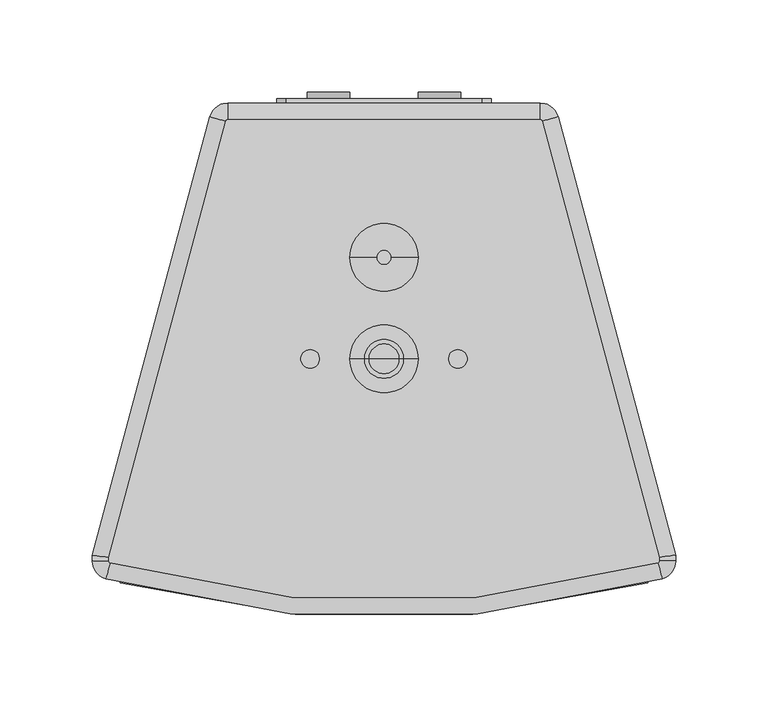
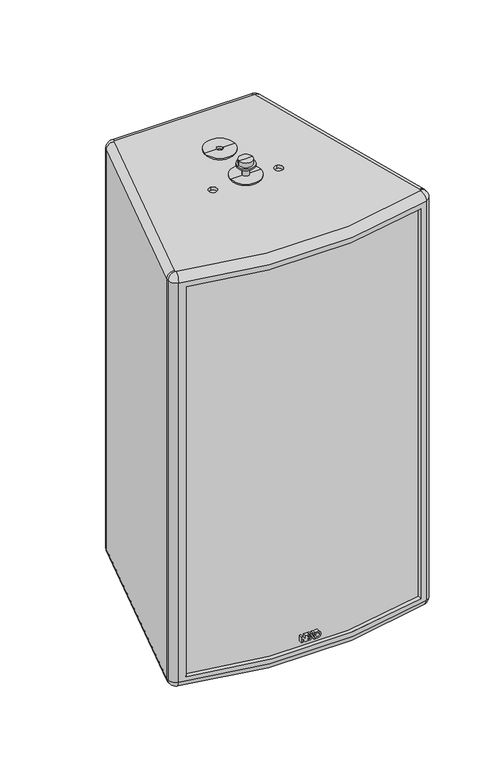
"""IFC4 building model written with IfcOpenShell, lengths in millimetres: proxy geometry, ePS10-HBRK535-WVM : ePS10-HBRK535-WVM."""

from ifc_helpers import new_model, si_unit, point, frame, frame_2d, origin, place, context, project, spatial, polyline, circle_curve, ellipse_curve, trimmed, segment, composite_curve, outline, extrude, source, transform, mapped, element, save
from ifc_brep_helpers import plane_surface, cylinder_surface, revolved_surface, advanced_brep


def generic_models_dbeaffa2(model_context):
    return source(origin(), model_context, "Body", "SolidModel", [
        extrude(outline(polyline([(-236.0590531, -11.9363528), (-243.3388202, -11.9363528), (-243.3388202, -10.0439855), (-239.1734899, -10.0439855), (-243.3388202, -7.2688886), (-243.3388202, -0.4179789), (-241.463849, 0.9005934), (-239.8643156, -0.1627837), (-241.7361557, -1.5323263), (-241.7361557, -4.5659556), (-240.4818684, -4.5659556), (-240.4818684, -2.2828427), (-238.8791381, -2.2828427), (-238.8791381, -4.5659556), (-237.6626349, -4.5659556), (-237.6626349, -2.1588809), (-236.8626349, -2.1588809), (-236.0599046, -2.6925396), (-236.0599046, -6.9609157), (-240.5099607, -6.9706073), (-236.0590531, -9.9098734), (-236.0590531, -11.9363528)])), frame((0.0, -383.9959014, 0.0), z_axis=(0.0, 1.0, 0.0), x_axis=(0.0, 0.0, 1.0)), (0.0, 0.0, 1.0), 5.0),
        extrude(outline(polyline([(-236.0590531, -2.0512245), (-244.3, 3.4273947), (-244.3, 5.6205974), (-236.0590531, 0.1419782), (-236.0590531, -2.0512245)])), frame((0.0, -383.9959014, 0.0), z_axis=(0.0, 1.0, 0.0), x_axis=(0.0, 0.0, 1.0)), (0.0, 0.0, 1.0), 5.0),
        extrude(outline(polyline([(-236.0590531, 4.6894095), (-236.0590531, 2.362619), (-237.3270101, 1.6148247), (-238.957904, 2.6990504), (-236.0590531, 4.6894095)])), frame((0.0, -383.9959014, 0.0), z_axis=(0.0, 1.0, 0.0), x_axis=(0.0, 0.0, 1.0)), (0.0, 0.0, 1.0), 5.0),
        extrude(outline(composite_curve([segment(trimmed(circle_curve(frame_2d((-239.7298911, 8.0750207)), 3.9406238), [point((-239.7298911, 4.1343969))], [point((-239.7298911, 12.0156446))], False, "CARTESIAN"), True, "CONTINUOUS"), segment(trimmed(circle_curve(frame_2d((-239.7298911, 8.0750207)), 3.9406238), [point((-239.7298911, 12.0156446))], [point((-239.7298911, 4.1343969))], False, "CARTESIAN"), True, "CONTINUOUS")], self_intersect=False), holes=[composite_curve([segment(trimmed(circle_curve(frame_2d((-239.7298911, 8.0750207)), 2.0681078), [point((-239.7298911, 6.0069129))], [point((-239.7298911, 10.1431285))], True, "CARTESIAN"), True, "CONTINUOUS"), segment(trimmed(circle_curve(frame_2d((-239.7298911, 8.0750207)), 2.0681078), [point((-239.7298911, 10.1431285))], [point((-239.7298911, 6.0069129))], True, "CARTESIAN"), True, "CONTINUOUS")], self_intersect=False)]), frame((0.0, -383.9959014, 0.0), z_axis=(0.0, 1.0, 0.0), x_axis=(0.0, 0.0, 1.0)), (0.0, 0.0, 1.0), 5.0),
        extrude(outline(composite_curve([segment(trimmed(circle_curve(frame_2d((-228.0, 30.0)), 11.4515227), [point((-228.0, 41.4515227))], [point((-228.0, 18.5484773))], False, "CARTESIAN"), True, "CONTINUOUS"), segment(trimmed(circle_curve(frame_2d((-228.0, 30.0)), 11.4515227), [point((-228.0, 18.5484773))], [point((-228.0, 41.4515227))], False, "CARTESIAN"), True, "CONTINUOUS")], self_intersect=False), holes=[composite_curve([segment(trimmed(circle_curve(frame_2d((-228.0, 30.0)), 5.0), [point((-228.0, 35.0))], [point((-228.0, 25.0))], True, "CARTESIAN"), True, "CONTINUOUS"), segment(trimmed(circle_curve(frame_2d((-228.0, 30.0)), 5.0), [point((-228.0, 25.0))], [point((-228.0, 35.0))], True, "CARTESIAN"), True, "CONTINUOUS")], self_intersect=False)]), frame((0.0, -105.401166, 0.0), z_axis=(0.0, 1.0, 0.0), x_axis=(0.0, 0.0, 1.0)), (0.0, 0.0, 1.0), 3.4052646),
        extrude(outline(composite_curve([segment(trimmed(circle_curve(frame_2d((-228.0, -30.0)), 11.4515227), [point((-228.0, -18.5484773))], [point((-228.0, -41.4515227))], False, "CARTESIAN"), True, "CONTINUOUS"), segment(trimmed(circle_curve(frame_2d((-228.0, -30.0)), 11.4515227), [point((-228.0, -41.4515227))], [point((-228.0, -18.5484773))], False, "CARTESIAN"), True, "CONTINUOUS")], self_intersect=False), holes=[composite_curve([segment(trimmed(circle_curve(frame_2d((-228.0, -30.0)), 5.0), [point((-228.0, -25.0))], [point((-228.0, -35.0))], True, "CARTESIAN"), True, "CONTINUOUS"), segment(trimmed(circle_curve(frame_2d((-228.0, -30.0)), 5.0), [point((-228.0, -35.0))], [point((-228.0, -25.0))], True, "CARTESIAN"), True, "CONTINUOUS")], self_intersect=False)]), frame((0.0, -105.401166, 0.0), z_axis=(0.0, 1.0, 0.0), x_axis=(0.0, 0.0, 1.0)), (0.0, 0.0, 1.0), 3.4052646),
        extrude(outline(composite_curve([segment(polyline([(-209.0, 53.0), (-209.0, -53.0)]), True, "CONTINUOUS"), segment(trimmed(circle_curve(frame_2d((-214.0, -53.0)), 5.0), [point((-209.0, -53.0))], [point((-214.0, -58.0))], False, "CARTESIAN"), True, "CONTINUOUS"), segment(polyline([(-214.0, -58.0), (-242.0, -58.0)]), True, "CONTINUOUS"), segment(trimmed(circle_curve(frame_2d((-242.0, -53.0)), 5.0), [point((-242.0, -58.0))], [point((-247.0, -53.0))], False, "CARTESIAN"), True, "CONTINUOUS"), segment(polyline([(-247.0, -53.0), (-247.0, 53.0)]), True, "CONTINUOUS"), segment(trimmed(circle_curve(frame_2d((-242.0, 53.0)), 5.0), [point((-247.0, 53.0))], [point((-242.0, 58.0))], False, "CARTESIAN"), True, "CONTINUOUS"), segment(polyline([(-242.0, 58.0), (-214.0, 58.0)]), True, "CONTINUOUS"), segment(trimmed(circle_curve(frame_2d((-214.0, 53.0)), 5.0), [point((-214.0, 58.0))], [point((-209.0, 53.0))], False, "CARTESIAN"), True, "CONTINUOUS")], self_intersect=False)), frame((0.0, -107.901166, 0.0), z_axis=(0.0, 1.0, 0.0), x_axis=(0.0, 0.0, 1.0)), (0.0, 0.0, 1.0), 2.5),
        advanced_brep(
        [(-84.6724223, -116.8928893, 265.5), (-85.6463427, -117.6402048, 265.5), (-149.0082766, -354.1101613, 265.5), (-149.0082766, -356.1099836, 265.5), (-148.2793024, -357.0788035, 265.5), (148.2793024, -357.0788035, 265.5), (149.0082766, -356.1099836, 265.5), (149.0082766, -354.1101613, 265.5), (85.6463427, -117.6402048, 265.5), (84.6724223, -116.8928893, 265.5), (0.0, -251.4959014, 265.5), (0.0, -241.4959014, 265.5), (-40.0, -251.4959014, 265.5), (-40.0, -241.4959014, 265.5), (40.0, -251.4959014, 265.5), (40.0, -241.4959014, 265.5), (84.6724223, -116.901166, -265.5), (85.6383481, -117.6423469, -265.5), (149.0, -354.111251, -265.5), (149.0, -356.1099836, -265.5), (148.2770097, -357.0708507, -265.5), (-148.2770097, -357.0708507, -265.5), (-149.0, -356.1099836, -265.5), (-149.0, -354.111251, -265.5), (-85.6383481, -117.6423469, -265.5), (-84.6724223, -116.901166, -265.5), (0.0, -241.4959014, -265.5), (0.0, -251.4959014, -265.5), (-40.0, -241.4959014, -265.5), (-40.0, -251.4959014, -265.5), (40.0, -241.4959014, -265.5), (40.0, -251.4959014, -265.5), (0.0, -241.4959014, 261.5), (0.0, -251.4959014, 261.5), (-40.0, -241.4959014, 261.5), (-40.0, -251.4959014, 261.5), (40.0, -241.4959014, 261.5), (40.0, -251.4959014, 261.5), (-143.0, -367.8964509, 250.5), (-143.0, -362.7126144, 250.5), (143.0, -362.7126144, 250.5), (143.0, -367.8964509, 250.5), (143.0, -367.8964509, -250.5), (143.0, -362.7126144, -250.5), (-143.0, -362.7126144, -250.5), (-143.0, -367.8964509, -250.5), (0.0, -241.4959014, -261.5), (0.0, -251.4959014, -261.5), (-40.0, -241.4959014, -261.5), (-40.0, -251.4959014, -261.5), (40.0, -241.4959014, -261.5), (40.0, -251.4959014, -261.5), (-29.3432823, -113.9959014, 0.0), (-40.6566026, -113.9959014, 0.0), (40.6567177, -113.9959014, 0.0), (29.3433974, -113.9959014, 0.0), (-29.3432823, -113.9959014, 70.0), (-40.6566026, -113.9959014, 70.0), (-40.6566026, -107.901166, 0.0), (-29.3432823, -107.901166, 0.0), (29.3433974, -107.901166, 0.0), (40.6567177, -107.901166, 0.0), (-84.6724223, -107.901166, 256.5082766), (84.6724223, -107.901166, 256.5082766), (84.6724223, -107.901166, -256.5), (-84.6724223, -107.901166, -256.5), (-40.6566026, -107.901166, 70.0), (-29.3432823, -107.901166, 70.0), (-94.3316806, -115.3129755, 256.5082766), (-94.3316806, -115.3129755, -256.5), (-158.0, -352.9263785, 256.5082766), (-158.0, -352.9263785, -256.5), (-158.0, -356.1099836, 256.5082766), (-158.0, -356.1099836, -256.5), (150.7700973, -365.7186548, 256.5082766), (-150.7700973, -365.7186548, 256.5082766), (-150.7700973, -365.7186548, -256.500006), (150.7700973, -365.7186548, -256.5), (158.0, -352.9263785, 256.5082766), (158.0, -356.1099836, 256.5082766), (158.0, -356.1099836, -256.5), (158.0, -352.9263785, -256.5), (94.3316806, -115.3129755, 256.5082766), (94.3316806, -115.3129755, -256.5)],
        [
            (0, 1, circle_curve(frame((-84.6724223, -117.901166, 265.5), z_axis=(0.0, 0.0, 1.0), x_axis=(0.0, 1.0, 0.0)), 1.0082766)),
            (1, 2),
            (2, 3),
            (3, 4, circle_curve(frame((-148.0, -356.1099836, 265.5), z_axis=(0.0, 0.0, 1.0), x_axis=(-1.0, 0.0, 0.0)), 1.0082766)),
            (4, 5, circle_curve(frame((0.0, 157.25947, 265.5), z_axis=(0.0, 0.0, 1.0), x_axis=(-0.27700972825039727, -0.9608671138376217, 0.0)), 535.2855417)),
            (5, 6, circle_curve(frame((148.0, -356.1099836, 265.5), z_axis=(0.0, 0.0, 1.0), x_axis=(0.2770097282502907, -0.9608671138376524, 0.0)), 1.0082766)),
            (6, 7),
            (7, 8),
            (8, 9, circle_curve(frame((84.6724223, -117.901166, 265.5), z_axis=(0.0, 0.0, 1.0), x_axis=(0.9659258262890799, 0.2588190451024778, 0.0)), 1.0082766)),
            (9, 0),
            (10, 11, circle_curve(frame((0.0, -246.4959014, 265.5), z_axis=(0.0, 0.0, -1.0), x_axis=(0.0, -1.0, 0.0)), 5.0)),
            (11, 10, circle_curve(frame((0.0, -246.4959014, 265.5), z_axis=(0.0, 0.0, -1.0), x_axis=(0.0, -1.0, 0.0)), 5.0)),
            (12, 13, circle_curve(frame((-40.0, -246.4959014, 265.5), z_axis=(0.0, 0.0, -1.0), x_axis=(0.0, -1.0, 0.0)), 5.0)),
            (13, 12, circle_curve(frame((-40.0, -246.4959014, 265.5), z_axis=(0.0, 0.0, -1.0), x_axis=(0.0, -1.0, 0.0)), 5.0)),
            (14, 15, circle_curve(frame((40.0, -246.4959014, 265.5), z_axis=(0.0, 0.0, -1.0), x_axis=(0.0, -1.0, 0.0)), 5.0)),
            (15, 14, circle_curve(frame((40.0, -246.4959014, 265.5), z_axis=(0.0, 0.0, -1.0), x_axis=(0.0, -1.0, 0.0)), 5.0)),
            (16, 17, circle_curve(frame((84.6724223, -117.901166, -265.5), z_axis=(0.0, 0.0, -1.0), x_axis=(0.0, 1.0, 0.0)), 1.0)),
            (17, 18),
            (18, 19),
            (19, 20, circle_curve(frame((148.0, -356.1099836, -265.5), z_axis=(0.0, 0.0, -1.0), x_axis=(1.0, 0.0, 0.0)), 1.0)),
            (20, 21, circle_curve(frame((0.0, 157.25947, -265.5), z_axis=(0.0, 0.0, -1.0), x_axis=(0.27700972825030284, -0.9608671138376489, 0.0)), 535.277265)),
            (21, 22, circle_curve(frame((-148.0, -356.1099836, -265.5), z_axis=(0.0, 0.0, -1.0), x_axis=(-0.27700972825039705, -0.9608671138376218, 0.0)), 1.0)),
            (22, 23),
            (23, 24),
            (24, 25, circle_curve(frame((-84.6724223, -117.901166, -265.5), z_axis=(0.0, 0.0, -1.0), x_axis=(-0.9659258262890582, 0.2588190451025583, 0.0)), 1.0)),
            (25, 16),
            (26, 27, circle_curve(frame((0.0, -246.4959014, -265.5), z_axis=(0.0, 0.0, 1.0), x_axis=(0.0, -1.0, 0.0)), 5.0)),
            (27, 26, circle_curve(frame((0.0, -246.4959014, -265.5), z_axis=(0.0, 0.0, 1.0), x_axis=(0.0, -1.0, 0.0)), 5.0)),
            (28, 29, circle_curve(frame((-40.0, -246.4959014, -265.5), z_axis=(0.0, 0.0, 1.0), x_axis=(0.0, -1.0, 0.0)), 5.0)),
            (29, 28, circle_curve(frame((-40.0, -246.4959014, -265.5), z_axis=(0.0, 0.0, 1.0), x_axis=(0.0, -1.0, 0.0)), 5.0)),
            (30, 31, circle_curve(frame((40.0, -246.4959014, -265.5), z_axis=(0.0, 0.0, 1.0), x_axis=(0.0, -1.0, 0.0)), 5.0)),
            (31, 30, circle_curve(frame((40.0, -246.4959014, -265.5), z_axis=(0.0, 0.0, 1.0), x_axis=(0.0, -1.0, 0.0)), 5.0)),
            (32, 33, circle_curve(frame((0.0, -246.4959014, 261.5), z_axis=(0.0, 0.0, 1.0), x_axis=(0.0, -1.0, 0.0)), 5.0)),
            (33, 32, circle_curve(frame((0.0, -246.4959014, 261.5), z_axis=(0.0, 0.0, 1.0), x_axis=(0.0, -1.0, 0.0)), 5.0)),
            (34, 35, circle_curve(frame((-40.0, -246.4959014, 261.5), z_axis=(0.0, 0.0, 1.0), x_axis=(0.0, -1.0, 0.0)), 5.0)),
            (35, 34, circle_curve(frame((-40.0, -246.4959014, 261.5), z_axis=(0.0, 0.0, 1.0), x_axis=(0.0, -1.0, 0.0)), 5.0)),
            (36, 37, circle_curve(frame((40.0, -246.4959014, 261.5), z_axis=(0.0, 0.0, 1.0), x_axis=(0.0, -1.0, 0.0)), 5.0)),
            (37, 36, circle_curve(frame((40.0, -246.4959014, 261.5), z_axis=(0.0, 0.0, 1.0), x_axis=(0.0, -1.0, 0.0)), 5.0)),
            (32, 11),
            (10, 33),
            (34, 13),
            (12, 35),
            (36, 15),
            (14, 37),
            (38, 39),
            (39, 40, circle_curve(frame((0.0, 157.25947, 250.5), z_axis=(0.0, 0.0, 1.0), x_axis=(1.0, 0.0, 0.0)), 539.277265)),
            (40, 41),
            (41, 38, circle_curve(frame((0.0, 157.25947, 250.5), z_axis=(0.0, 0.0, -1.0), x_axis=(1.0, 0.0, 0.0)), 544.277265)),
            (42, 43),
            (43, 44, circle_curve(frame((0.0, 157.25947, -250.5), z_axis=(0.0, 0.0, -1.0), x_axis=(1.0, 0.0, 0.0)), 539.277265)),
            (44, 45),
            (45, 42, circle_curve(frame((0.0, 157.25947, -250.5), z_axis=(0.0, 0.0, 1.0), x_axis=(1.0, 0.0, 0.0)), 544.277265)),
            (46, 47, circle_curve(frame((0.0, -246.4959014, -261.5), z_axis=(0.0, 0.0, -1.0), x_axis=(0.0, -1.0, 0.0)), 5.0)),
            (47, 46, circle_curve(frame((0.0, -246.4959014, -261.5), z_axis=(0.0, 0.0, -1.0), x_axis=(0.0, -1.0, 0.0)), 5.0)),
            (48, 49, circle_curve(frame((-40.0, -246.4959014, -261.5), z_axis=(0.0, 0.0, -1.0), x_axis=(0.0, -1.0, 0.0)), 5.0)),
            (49, 48, circle_curve(frame((-40.0, -246.4959014, -261.5), z_axis=(0.0, 0.0, -1.0), x_axis=(0.0, -1.0, 0.0)), 5.0)),
            (50, 51, circle_curve(frame((40.0, -246.4959014, -261.5), z_axis=(0.0, 0.0, -1.0), x_axis=(0.0, -1.0, 0.0)), 5.0)),
            (51, 50, circle_curve(frame((40.0, -246.4959014, -261.5), z_axis=(0.0, 0.0, -1.0), x_axis=(0.0, -1.0, 0.0)), 5.0)),
            (47, 27),
            (26, 46),
            (49, 29),
            (28, 48),
            (51, 31),
            (30, 50),
            (52, 53, circle_curve(frame((-34.9999424, -113.9959014, 0.0), z_axis=(0.0, 1.0, 0.0), x_axis=(-1.0, 0.0, 0.0)), 5.6566602)),
            (53, 52, circle_curve(frame((-34.9999424, -113.9959014, 0.0), z_axis=(0.0, 1.0, 0.0), x_axis=(-1.0, 0.0, 0.0)), 5.6566602)),
            (54, 55, circle_curve(frame((35.0000576, -113.9959014, 0.0), z_axis=(0.0, 1.0, 0.0), x_axis=(-1.0, 0.0, 0.0)), 5.6566602)),
            (55, 54, circle_curve(frame((35.0000576, -113.9959014, 0.0), z_axis=(0.0, 1.0, 0.0), x_axis=(-1.0, 0.0, 0.0)), 5.6566602)),
            (56, 57, circle_curve(frame((-34.9999424, -113.9959014, 70.0), z_axis=(0.0, 1.0, 0.0), x_axis=(-1.0, 0.0, 0.0)), 5.6566602)),
            (57, 56, circle_curve(frame((-34.9999424, -113.9959014, 70.0), z_axis=(0.0, 1.0, 0.0), x_axis=(-1.0, 0.0, 0.0)), 5.6566602)),
            (53, 58),
            (58, 59, circle_curve(frame((-34.9999424, -107.901166, 0.0), z_axis=(0.0, 1.0, 0.0), x_axis=(-1.0, 0.0, 0.0)), 5.6566602)),
            (59, 52),
            (59, 58, circle_curve(frame((-34.9999424, -107.901166, 0.0), z_axis=(0.0, 1.0, 0.0), x_axis=(-1.0, 0.0, 0.0)), 5.6566602)),
            (55, 60),
            (60, 61, circle_curve(frame((35.0000576, -107.901166, 0.0), z_axis=(0.0, 1.0, 0.0), x_axis=(-1.0, 0.0, 0.0)), 5.6566602)),
            (61, 54),
            (61, 60, circle_curve(frame((35.0000576, -107.901166, 0.0), z_axis=(0.0, 1.0, 0.0), x_axis=(-1.0, 0.0, 0.0)), 5.6566602)),
            (62, 63),
            (63, 64),
            (64, 65),
            (65, 62),
            (66, 67, circle_curve(frame((-34.9999424, -107.901166, 70.0), z_axis=(0.0, -1.0, 0.0), x_axis=(-1.0, 0.0, 0.0)), 5.6566602)),
            (67, 66, circle_curve(frame((-34.9999424, -107.901166, 70.0), z_axis=(0.0, -1.0, 0.0), x_axis=(-1.0, 0.0, 0.0)), 5.6566602)),
            (68, 62, circle_curve(frame((-84.6724223, -117.901166, 256.5082766), z_axis=(0.0, 0.0, -1.0), x_axis=(1.0, 0.0, 0.0)), 10.0)),
            (65, 69, circle_curve(frame((-84.6724223, -117.901166, -256.5), z_axis=(0.0, 0.0, 1.0), x_axis=(1.0, 0.0, 0.0)), 10.0)),
            (69, 68),
            (70, 68),
            (69, 71),
            (71, 70),
            (72, 70),
            (71, 73),
            (73, 72),
            (74, 75, circle_curve(frame((0.0, 157.25947, 256.5082766), z_axis=(0.0, 0.0, -1.0), x_axis=(1.0, 0.0, 0.0)), 544.277265)),
            (75, 76),
            (76, 77, circle_curve(frame((0.0, 157.25947, -256.5), z_axis=(0.0, 0.0, 1.0), x_axis=(1.0, 0.0, 0.0)), 544.277265)),
            (77, 74),
            (41, 42),
            (45, 38),
            (78, 79),
            (79, 80),
            (80, 81),
            (81, 78),
            (82, 78),
            (81, 83),
            (83, 82),
            (63, 82, circle_curve(frame((84.6724223, -117.901166, 256.5082766), z_axis=(0.0, 0.0, -1.0), x_axis=(1.0, 0.0, 0.0)), 10.0)),
            (83, 64, circle_curve(frame((84.6724223, -117.901166, -256.5), z_axis=(0.0, 0.0, 1.0), x_axis=(1.0, 0.0, 0.0)), 10.0)),
            (75, 72, circle_curve(frame((-148.0, -356.1099836, 256.5082766), z_axis=(0.0, 0.0, -1.0), x_axis=(1.0, 0.0, 0.0)), 10.0)),
            (73, 76, circle_curve(frame((-148.0, -356.1099836, -256.5), z_axis=(0.0, 0.0, 1.0), x_axis=(1.0, 0.0, 0.0)), 10.0)),
            (79, 74, circle_curve(frame((148.0, -356.1099836, 256.5082766), z_axis=(0.0, 0.0, -1.0), x_axis=(1.0, 0.0, 0.0)), 10.0)),
            (77, 80, circle_curve(frame((148.0, -356.1099836, -256.5), z_axis=(0.0, 0.0, 1.0), x_axis=(1.0, 0.0, 0.0)), 10.0)),
            (56, 67),
            (66, 57),
            (40, 43),
            (39, 44),
            (68, 1, circle_curve(frame((-85.6463427, -117.6402048, 256.5082766), z_axis=(0.2588190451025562, 0.9659258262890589, 0.0), x_axis=(0.9659258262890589, -0.2588190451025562, 0.0)), 8.9917234)),
            (0, 62, circle_curve(frame((-84.6724223, -116.8928893, 256.5082766), z_axis=(-1.0, 0.0, 0.0), x_axis=(0.0, -1.0, 0.0)), 8.9917234)),
            (70, 2, ellipse_curve(frame((-149.0082766, -354.1101613, 256.5082766), z_axis=(0.13052619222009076, 0.9914448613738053, 0.0), x_axis=(-0.9914448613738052, 0.13052619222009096, 0.0)), 9.0693126, 8.9917234)),
            (72, 3, circle_curve(frame((-149.0082766, -356.1099836, 256.5082766), z_axis=(0.0, 1.0, 0.0), x_axis=(1.0, 0.0, 0.0)), 8.9917234)),
            (75, 4, circle_curve(frame((-148.2793024, -357.0788035, 256.5082766), z_axis=(-0.9608671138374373, 0.277009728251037, 0.0), x_axis=(0.277009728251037, 0.9608671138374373, 0.0)), 8.9917234)),
            (74, 5, circle_curve(frame((148.2793024, -357.0788035, 256.5082766), z_axis=(-0.9608671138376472, -0.2770097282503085, 0.0), x_axis=(-0.2770097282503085, 0.9608671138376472, 0.0)), 8.9917234)),
            (79, 6, circle_curve(frame((149.0082766, -356.1099836, 256.5082766), z_axis=(0.0, -1.0, 0.0), x_axis=(-1.0, 0.0, 0.0)), 8.9917234)),
            (78, 7, ellipse_curve(frame((149.0082766, -354.1101613, 256.5082766), z_axis=(0.1305261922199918, -0.9914448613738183, 0.0), x_axis=(0.9914448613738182, 0.13052619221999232, 0.0)), 9.0693126, 8.9917234)),
            (82, 8, circle_curve(frame((85.6463427, -117.6402048, 256.5082766), z_axis=(0.25881904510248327, -0.9659258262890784, 0.0), x_axis=(-0.9659258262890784, -0.25881904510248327, 0.0)), 8.9917234)),
            (63, 9, circle_curve(frame((84.6724223, -116.8928893, 256.5082766), z_axis=(1.0, 0.0, 0.0), x_axis=(0.0, -1.0, 0.0)), 8.9917234)),
            (83, 17, circle_curve(frame((85.6383481, -117.6423469, -256.5), z_axis=(-0.25881904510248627, 0.9659258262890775, 0.0), x_axis=(-0.9659258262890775, -0.25881904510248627, 0.0)), 9.0)),
            (16, 64, circle_curve(frame((84.6724223, -116.901166, -256.5), z_axis=(1.0, 0.0, 0.0), x_axis=(0.0, -1.0, 0.0)), 9.0)),
            (81, 18, ellipse_curve(frame((149.0, -354.111251, -256.5), z_axis=(-0.13052619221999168, 0.9914448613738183, 0.0), x_axis=(0.9914448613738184, 0.13052619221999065, 0.0)), 9.0776606, 9.0)),
            (80, 19, circle_curve(frame((149.0, -356.1099836, -256.5), z_axis=(0.0, 1.0, 0.0), x_axis=(-1.0, 0.0, 0.0)), 9.0)),
            (77, 20, circle_curve(frame((148.2770097, -357.0708507, -256.5), z_axis=(0.9608671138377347, 0.27700972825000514, 0.0), x_axis=(-0.27700972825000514, 0.9608671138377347, 0.0)), 9.0)),
            (76, 21, circle_curve(frame((-148.2770097, -357.0708507, -256.5), z_axis=(0.9608671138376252, -0.27700972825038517, 0.0), x_axis=(0.27700972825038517, 0.9608671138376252, 0.0)), 9.0)),
            (73, 22, circle_curve(frame((-149.0, -356.1099836, -256.5), z_axis=(0.0, -1.0, 0.0), x_axis=(1.0, 0.0, 0.0)), 9.0)),
            (71, 23, ellipse_curve(frame((-149.0, -354.111251, -256.5), z_axis=(-0.13052619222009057, -0.9914448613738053, 0.0), x_axis=(-0.9914448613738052, 0.1305261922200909, 0.0)), 9.0776606, 9.0)),
            (69, 24, circle_curve(frame((-85.6383481, -117.6423469, -256.5), z_axis=(-0.2588190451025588, -0.9659258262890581, 0.0), x_axis=(0.9659258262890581, -0.2588190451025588, 0.0)), 9.0)),
            (65, 25, circle_curve(frame((-84.6724223, -116.901166, -256.5), z_axis=(-1.0, 0.0, 0.0), x_axis=(0.0, -1.0, 0.0)), 9.0)),
        ],
        [
            plane_surface(frame((-85.0560858, -107.901166, 265.5), z_axis=(0.0, 0.0, 1.0), x_axis=(-1.0, 0.0, 0.0))),
            plane_surface(frame((-85.0560858, -107.901166, -265.5), z_axis=(0.0, 0.0, -1.0), x_axis=(1.0, 0.0, 0.0))),
            plane_surface(frame((0.0, -251.4959014, 261.5), z_axis=(0.0, 0.0, 1.0), x_axis=(-1.0, 0.0, 0.0))),
            revolved_surface(polyline([(0.0, -251.4959014, 265.5), (0.0, -251.4959014, 261.5)]), (0.0, -246.4959014, 261.5), (0.0, 0.0, 1.0)),
            revolved_surface(polyline([(-40.0, -251.4959014, 265.5), (-40.0, -251.4959014, 261.5)]), (-40.0, -246.4959014, 265.5), (0.0, 0.0, 1.0)),
            revolved_surface(polyline([(40.0, -251.4959014, 265.5), (40.0, -251.4959014, 261.5)]), (40.0, -246.4959014, 265.5), (0.0, 0.0, 1.0)),
            plane_surface(frame((143.0, -433.2558192, 250.5), z_axis=(0.0, 0.0, -1.0), x_axis=(0.0, 1.0, 0.0))),
            plane_surface(frame((143.0, -433.2558192, -250.5), z_axis=(0.0, 0.0, 1.0), x_axis=(0.0, -1.0, 0.0))),
            plane_surface(frame((0.0, -251.4959014, -261.5), z_axis=(0.0, 0.0, -1.0), x_axis=(1.0, 0.0, 0.0))),
            revolved_surface(polyline([(0.0, -251.4959014, -261.5), (0.0, -251.4959014, -265.5)]), (0.0, -246.4959014, -269.5), (0.0, 0.0, 1.0)),
            revolved_surface(polyline([(-40.0, -251.4959014, -261.5), (-40.0, -251.4959014, -265.5)]), (-40.0, -246.4959014, -265.5), (0.0, 0.0, 1.0)),
            revolved_surface(polyline([(40.0, -251.4959014, -261.5), (40.0, -251.4959014, -265.5)]), (40.0, -246.4959014, -265.5), (0.0, 0.0, 1.0)),
            plane_surface(frame((-40.6566026, -113.9959014, 0.0), z_axis=(0.0, 1.0, 0.0), x_axis=(0.0, 0.0, -1.0))),
            revolved_surface(polyline([(-40.6566026, -107.901166, 0.0), (-40.6566026, -113.9959014, 0.0)]), (-34.9999424, -113.9959014, 0.0), (0.0, 1.0, 0.0)),
            revolved_surface(polyline([(29.343397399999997, -107.901166, 0.0), (29.343397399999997, -113.9959014, 0.0)]), (35.0000576, -101.9959014, 0.0), (0.0, 1.0, 0.0)),
            plane_surface(frame((84.6724223, -107.901166, 265.5), z_axis=(0.0, 1.0, 0.0), x_axis=(0.0, 0.0, -1.0))),
            cylinder_surface(frame((-84.6724223, -117.901166, -265.5), z_axis=(0.0, 0.0, 1.0), x_axis=(1.0, 0.0, 0.0)), 10.0),
            plane_surface(frame((-94.3316806, -115.3129755, 265.5), z_axis=(-0.965925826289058, 0.2588190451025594, 0.0), x_axis=(0.0, 0.0, -1.0))),
            plane_surface(frame((-158.0, -352.9263785, 265.5), z_axis=(-1.0, 0.0, 0.0), x_axis=(0.0, 0.0, -1.0))),
            cylinder_surface(frame((0.0, 157.25947, -265.5), z_axis=(0.0, 0.0, 1.0), x_axis=(1.0, 0.0, 0.0)), 544.277265),
            plane_surface(frame((158.0, -356.1099836, 265.5), z_axis=(1.0, 0.0, 0.0), x_axis=(0.0, 0.0, -1.0))),
            plane_surface(frame((158.0, -352.9263785, 265.5), z_axis=(0.9659258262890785, 0.25881904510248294, 0.0), x_axis=(0.0, 0.0, -1.0))),
            cylinder_surface(frame((84.6724223, -117.901166, -265.5), z_axis=(0.0, 0.0, 1.0), x_axis=(1.0, 0.0, 0.0)), 10.0),
            cylinder_surface(frame((-148.0, -356.1099836, -265.5), z_axis=(0.0, 0.0, 1.0), x_axis=(1.0, 0.0, 0.0)), 10.0),
            cylinder_surface(frame((148.0, -356.1099836, -265.5), z_axis=(0.0, 0.0, 1.0), x_axis=(1.0, 0.0, 0.0)), 10.0),
            revolved_surface(polyline([(-40.6566026, -107.901166, 70.0), (-40.6566026, -113.9959014, 70.0)]), (-34.9999424, -101.9959014, 70.0), (0.0, 1.0, 0.0)),
            plane_surface(frame((143.0, -367.8964509, 250.5), z_axis=(-1.0, 0.0, 0.0), x_axis=(0.0, 0.0, -1.0))),
            cylinder_surface(frame((0.0, 157.25947, -250.5), z_axis=(0.0, 0.0, -1.0), x_axis=(1.0, 0.0, 0.0)), 539.277265),
            plane_surface(frame((-143.0, -362.7126144, 250.5), z_axis=(1.0, 0.0, 0.0), x_axis=(0.0, 0.0, -1.0))),
            revolved_surface(trimmed(ellipse_curve(frame((-84.6724223, -116.8928893, 256.5082766), z_axis=(1.0, 0.0, 0.0), x_axis=(0.0, -1.0, 0.0)), 8.9917234, 8.9917234), [point((-84.6724223, -107.901166, 256.5082766))], [point((-84.6724223, -116.8928893, 265.5))], True, "CARTESIAN"), (-84.6724223, -117.901166, 265.5), (0.0, 0.0, 1.0)),
            cylinder_surface(frame((-85.6463427, -117.6402048, 256.5082766), z_axis=(-0.258819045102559, -0.965925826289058, 0.0), x_axis=(0.965925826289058, -0.258819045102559, 0.0)), 8.9917234),
            cylinder_surface(frame((-149.0082766, -352.9263785, 256.5082766), z_axis=(0.0, -1.0, 0.0), x_axis=(1.0, 0.0, 0.0)), 8.9917234),
            revolved_surface(trimmed(ellipse_curve(frame((-149.0082766, -356.1099836, 256.5082766), z_axis=(0.0, 1.0, 0.0), x_axis=(1.0, 0.0, 0.0)), 8.9917234, 8.9917234), [point((-158.0, -356.1099836, 256.5082766))], [point((-149.0082766, -356.1099836, 265.5))], True, "CARTESIAN"), (-148.0, -356.1099836, 265.5), (0.0, 0.0, 1.0)),
            revolved_surface(trimmed(ellipse_curve(frame((-148.2793024, -357.0788035, 256.5082766), z_axis=(-0.9608671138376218, 0.2770097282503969, 0.0), x_axis=(0.2770097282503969, 0.9608671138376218, 0.0)), 8.9917234, 8.9917234), [point((-150.7700973, -365.7186548, 256.5082766))], [point((-148.2793024, -357.0788035, 265.5))], True, "CARTESIAN"), (0.0, 157.25947, 265.5), (0.0, 0.0, 1.0)),
            revolved_surface(trimmed(ellipse_curve(frame((148.2793024, -357.0788035, 256.5082766), z_axis=(-0.9608671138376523, -0.27700972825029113, 0.0), x_axis=(-0.27700972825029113, 0.9608671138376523, 0.0)), 8.9917234, 8.9917234), [point((150.7700973, -365.7186548, 256.5082766))], [point((148.2793024, -357.0788035, 265.5))], True, "CARTESIAN"), (148.0, -356.1099836, 265.5), (0.0, 0.0, 1.0)),
            cylinder_surface(frame((149.0082766, -356.1099836, 256.5082766), z_axis=(0.0, 1.0, 0.0), x_axis=(-1.0, 0.0, 0.0)), 8.9917234),
            cylinder_surface(frame((149.3146622, -355.2536078, 256.5082766), z_axis=(-0.25881904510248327, 0.9659258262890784, 0.0), x_axis=(-0.9659258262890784, -0.25881904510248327, 0.0)), 8.9917234),
            revolved_surface(trimmed(ellipse_curve(frame((85.6463427, -117.6402048, 256.5082766), z_axis=(0.2588190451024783, -0.9659258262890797, 0.0), x_axis=(-0.9659258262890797, -0.2588190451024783, 0.0)), 8.9917234, 8.9917234), [point((94.3316806, -115.3129755, 256.5082766))], [point((85.6463427, -117.6402048, 265.5))], True, "CARTESIAN"), (84.6724223, -117.901166, 265.5), (0.0, 0.0, 1.0)),
            cylinder_surface(frame((84.6724223, -116.8928893, 256.5082766), z_axis=(-1.0, 0.0, 0.0), x_axis=(0.0, -1.0, 0.0)), 8.9917234),
            revolved_surface(trimmed(ellipse_curve(frame((84.6724223, -116.901166, -256.5), z_axis=(-1.0, 0.0, 0.0), x_axis=(0.0, -1.0, 0.0)), 9.0, 9.0), [point((84.6724223, -107.901166, -256.5))], [point((84.6724223, -116.901166, -265.5))], True, "CARTESIAN"), (84.6724223, -117.901166, -265.5), (0.0, 0.0, -1.0)),
            cylinder_surface(frame((85.6383481, -117.6423469, -256.5), z_axis=(0.25881904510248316, -0.9659258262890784, 0.0), x_axis=(-0.9659258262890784, -0.25881904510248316, 0.0)), 9.0),
            cylinder_surface(frame((149.0, -352.9263785, -256.5), z_axis=(0.0, -1.0, 0.0), x_axis=(-1.0, 0.0, 0.0)), 9.0),
            revolved_surface(trimmed(ellipse_curve(frame((149.0, -356.1099836, -256.5), z_axis=(0.0, 1.0, 0.0), x_axis=(-1.0, 0.0, 0.0)), 9.0, 9.0), [point((158.0, -356.1099836, -256.5))], [point((149.0, -356.1099836, -265.5))], True, "CARTESIAN"), (148.0, -356.1099836, -265.5), (0.0, 0.0, -1.0)),
            revolved_surface(trimmed(ellipse_curve(frame((148.2770097, -357.0708507, -256.5), z_axis=(0.9608671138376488, 0.2770097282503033, 0.0), x_axis=(-0.2770097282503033, 0.9608671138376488, 0.0)), 9.0, 9.0), [point((150.7700973, -365.7186548, -256.5))], [point((148.2770097, -357.0708507, -265.5))], True, "CARTESIAN"), (0.0, 157.25947, -265.5), (0.0, 0.0, -1.0)),
            revolved_surface(trimmed(ellipse_curve(frame((-148.2770097, -357.0708507, -256.5), z_axis=(0.960867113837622, -0.2770097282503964, 0.0), x_axis=(0.2770097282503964, 0.960867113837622, 0.0)), 9.0, 9.0), [point((-150.7700973, -365.7186548, -256.5))], [point((-148.2770097, -357.0708507, -265.5))], True, "CARTESIAN"), (-148.0, -356.1099836, -265.5), (0.0, 0.0, -1.0)),
            cylinder_surface(frame((-149.0, -356.1099836, -256.5), z_axis=(0.0, 1.0, 0.0), x_axis=(1.0, 0.0, 0.0)), 9.0),
            cylinder_surface(frame((-149.3066676, -355.2557499, -256.5), z_axis=(0.2588190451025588, 0.9659258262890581, 0.0), x_axis=(0.9659258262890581, -0.2588190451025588, 0.0)), 9.0),
            revolved_surface(trimmed(ellipse_curve(frame((-85.6383481, -117.6423469, -256.5), z_axis=(-0.2588190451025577, -0.9659258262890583, 0.0), x_axis=(0.9659258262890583, -0.2588190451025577, 0.0)), 9.0, 9.0), [point((-94.3316806, -115.3129755, -256.5))], [point((-85.6383481, -117.6423469, -265.5))], True, "CARTESIAN"), (-84.6724223, -117.901166, -265.5), (0.0, 0.0, -1.0)),
            cylinder_surface(frame((-84.6724223, -116.901166, -256.5), z_axis=(1.0, 0.0, 0.0), x_axis=(0.0, -1.0, 0.0)), 9.0),
        ],
        [
            (0, [[1, 2, 3, 4, 5, 6, 7, 8, 9, 10], [11, 12], [13, 14], [15, 16]]),
            (1, [[17, 18, 19, 20, 21, 22, 23, 24, 25, 26], [27, 28], [29, 30], [31, 32]]),
            (2, [[33, 34]]),
            (2, [[35, 36]]),
            (2, [[37, 38]]),
            (3, [[-33, 39, -11, 40]]),
            (3, [[-34, -40, -12, -39]]),
            (4, [[-35, 41, -13, 42]]),
            (4, [[-36, -42, -14, -41]]),
            (5, [[-37, 43, -15, 44]]),
            (5, [[-38, -44, -16, -43]]),
            (6, [[45, 46, 47, 48]]),
            (7, [[49, 50, 51, 52]]),
            (8, [[53, 54]]),
            (8, [[55, 56]]),
            (8, [[57, 58]]),
            (9, [[-54, 59, -27, 60]]),
            (9, [[-53, -60, -28, -59]]),
            (10, [[-56, 61, -29, 62]]),
            (10, [[-55, -62, -30, -61]]),
            (11, [[-58, 63, -31, 64]]),
            (11, [[-57, -64, -32, -63]]),
            (12, [[65, 66]]),
            (12, [[67, 68]]),
            (12, [[69, 70]]),
            (13, [[-66, 71, 72, 73]]),
            (13, [[-65, -73, 74, -71]]),
            (14, [[-68, 75, 76, 77]]),
            (14, [[-67, -77, 78, -75]]),
            (15, [[79, 80, 81, 82], [-72, -74], [-76, -78], [83, 84]]),
            (16, [[85, -82, 86, 87]]),
            (17, [[88, -87, 89, 90]]),
            (18, [[91, -90, 92, 93]]),
            (19, [[94, 95, 96, 97], [-48, 98, -52, 99]]),
            (20, [[100, 101, 102, 103]]),
            (21, [[104, -103, 105, 106]]),
            (22, [[107, -106, 108, -80]]),
            (23, [[109, -93, 110, -95]]),
            (24, [[111, -97, 112, -101]]),
            (25, [[-69, 113, -83, 114]]),
            (25, [[-70, -114, -84, -113]]),
            (26, [[-47, 115, -49, -98]]),
            (27, [[-46, 116, -50, -115]]),
            (28, [[-45, -99, -51, -116]]),
            (29, [[117, -1, 118, -85]]),
            (30, [[-117, -88, 119, -2]]),
            (31, [[-119, -91, 120, -3]]),
            (32, [[-120, -109, 121, -4]]),
            (33, [[-121, -94, 122, -5]]),
            (34, [[-122, -111, 123, -6]]),
            (35, [[-123, -100, 124, -7]]),
            (36, [[-124, -104, 125, -8]]),
            (37, [[-125, -107, 126, -9]]),
            (38, [[-118, -10, -126, -79]]),
            (39, [[127, -17, 128, -108]]),
            (40, [[-127, -105, 129, -18]]),
            (41, [[-129, -102, 130, -19]]),
            (42, [[-130, -112, 131, -20]]),
            (43, [[-131, -96, 132, -21]]),
            (44, [[-132, -110, 133, -22]]),
            (45, [[-133, -92, 134, -23]]),
            (46, [[-134, -89, 135, -24]]),
            (47, [[-135, -86, 136, -25]]),
            (48, [[-128, -26, -136, -81]]),
        ],
    ),
        advanced_brep(
        [(3.972567, -191.5012591, 271.5), (-3.972567, -191.5012591, 271.5), (-18.442415, -191.5012591, 271.5), (18.442415, -191.5012591, 271.5), (-15.442415, -191.5012591, 268.5), (15.442415, -191.5012591, 268.5), (-3.972567, -191.5012591, 268.5), (3.972567, -191.5012591, 268.5)],
        [
            (0, 1, circle_curve(frame((0.0, -191.5012591, 271.5), z_axis=(0.0, 0.0, -1.0), x_axis=(-1.0, 0.0, 0.0)), 3.972567)),
            (1, 2),
            (2, 3, circle_curve(frame((0.0, -191.5012591, 271.5), z_axis=(0.0, 0.0, 1.0), x_axis=(-1.0, 0.0, 0.0)), 18.442415)),
            (3, 0),
            (1, 0, circle_curve(frame((0.0, -191.5012591, 271.5), z_axis=(0.0, 0.0, -1.0), x_axis=(-1.0, 0.0, 0.0)), 3.972567)),
            (3, 2, circle_curve(frame((0.0, -191.5012591, 271.5), z_axis=(0.0, 0.0, 1.0), x_axis=(-1.0, 0.0, 0.0)), 18.442415)),
            (2, 4, circle_curve(frame((-15.442415, -191.5012591, 271.5), z_axis=(0.0, -1.0, 0.0), x_axis=(0.0, 0.0, -1.0)), 3.0)),
            (4, 5, circle_curve(frame((0.0, -191.5012591, 268.5), z_axis=(0.0, 0.0, 1.0), x_axis=(-1.0, 0.0, 0.0)), 15.442415)),
            (5, 3, circle_curve(frame((15.442415, -191.5012591, 271.5), z_axis=(0.0, -1.0, 0.0), x_axis=(0.0, 0.0, -1.0)), 3.0)),
            (5, 4, circle_curve(frame((0.0, -191.5012591, 268.5), z_axis=(0.0, 0.0, 1.0), x_axis=(-1.0, 0.0, 0.0)), 15.442415)),
            (4, 6),
            (6, 7, circle_curve(frame((0.0, -191.5012591, 268.5), z_axis=(0.0, 0.0, 1.0), x_axis=(-1.0, 0.0, 0.0)), 3.972567)),
            (7, 5),
            (7, 6, circle_curve(frame((0.0, -191.5012591, 268.5), z_axis=(0.0, 0.0, 1.0), x_axis=(-1.0, 0.0, 0.0)), 3.972567)),
            (6, 1),
            (0, 7),
        ],
        [
            plane_surface(frame((0.0, -191.5012591, 271.5), z_axis=(0.0, 0.0, 1.0), x_axis=(-1.0, 0.0, 0.0))),
            revolved_surface(trimmed(ellipse_curve(frame((-15.442415, -191.5012591, 271.5), z_axis=(0.0, 1.0, 0.0), x_axis=(0.0, 0.0, -1.0)), 3.0, 3.0), [point((-15.442415, -191.5012591, 268.5))], [point((-18.442415, -191.5012591, 271.5))], True, "CARTESIAN"), (0.0, -191.5012591, 258.7578639), (0.0, 0.0, 1.0)),
            plane_surface(frame((0.0, -191.5012591, 268.5), z_axis=(0.0, 0.0, -1.0), x_axis=(-1.0, 0.0, 0.0))),
            revolved_surface(polyline([(-3.972567, -191.5012591, 271.5), (-3.972567, -191.5012591, 268.5)]), (0.0, -191.5012591, 258.7578639), (0.0, 0.0, 1.0)),
        ],
        [
            (0, [[1, 2, 3, 4]]),
            (0, [[5, -4, 6, -2]]),
            (1, [[-3, 7, 8, 9]]),
            (1, [[-6, -9, 10, -7]]),
            (2, [[-8, 11, 12, 13]]),
            (2, [[-10, -13, 14, -11]]),
            (3, [[-12, 15, -1, 16]]),
            (3, [[-14, -16, -5, -15]]),
        ],
    ),
        advanced_brep(
        [(18.442415, -191.5012591, -271.5), (-18.442415, -191.5012591, -271.5), (-3.972567, -191.5012591, -271.5), (3.972567, -191.5012591, -271.5), (15.442415, -191.5012591, -268.5), (-15.442415, -191.5012591, -268.5), (3.972567, -191.5012591, -268.5), (-3.972567, -191.5012591, -268.5)],
        [
            (0, 1, circle_curve(frame((0.0, -191.5012591, -271.5), z_axis=(0.0, 0.0, -1.0), x_axis=(-1.0, 0.0, 0.0)), 18.442415)),
            (1, 2),
            (2, 3, circle_curve(frame((0.0, -191.5012591, -271.5), z_axis=(0.0, 0.0, 1.0), x_axis=(-1.0, 0.0, 0.0)), 3.972567)),
            (3, 0),
            (1, 0, circle_curve(frame((0.0, -191.5012591, -271.5), z_axis=(0.0, 0.0, -1.0), x_axis=(-1.0, 0.0, 0.0)), 18.442415)),
            (3, 2, circle_curve(frame((0.0, -191.5012591, -271.5), z_axis=(0.0, 0.0, 1.0), x_axis=(-1.0, 0.0, 0.0)), 3.972567)),
            (4, 5, circle_curve(frame((0.0, -191.5012591, -268.5), z_axis=(0.0, 0.0, -1.0), x_axis=(-1.0, 0.0, 0.0)), 15.442415)),
            (5, 1, circle_curve(frame((-15.442415, -191.5012591, -271.5), z_axis=(0.0, -1.0, 0.0), x_axis=(0.0, 0.0, 1.0)), 3.0)),
            (0, 4, circle_curve(frame((15.442415, -191.5012591, -271.5), z_axis=(0.0, -1.0, 0.0), x_axis=(0.0, 0.0, 1.0)), 3.0)),
            (5, 4, circle_curve(frame((0.0, -191.5012591, -268.5), z_axis=(0.0, 0.0, -1.0), x_axis=(-1.0, 0.0, 0.0)), 15.442415)),
            (6, 7, circle_curve(frame((0.0, -191.5012591, -268.5), z_axis=(0.0, 0.0, -1.0), x_axis=(-1.0, 0.0, 0.0)), 3.972567)),
            (7, 5),
            (4, 6),
            (7, 6, circle_curve(frame((0.0, -191.5012591, -268.5), z_axis=(0.0, 0.0, -1.0), x_axis=(-1.0, 0.0, 0.0)), 3.972567)),
            (2, 7),
            (6, 3),
        ],
        [
            plane_surface(frame((0.0, -191.5012591, -271.5), z_axis=(0.0, 0.0, -1.0), x_axis=(-1.0, 0.0, 0.0))),
            revolved_surface(trimmed(ellipse_curve(frame((-15.442415, -191.5012591, -271.5), z_axis=(0.0, 1.0, 0.0), x_axis=(0.0, 0.0, 1.0)), 3.0, 3.0), [point((-18.442415, -191.5012591, -271.5))], [point((-15.442415, -191.5012591, -268.5))], True, "CARTESIAN"), (0.0, -191.5012591, -258.7578639), (0.0, 0.0, 1.0)),
            plane_surface(frame((0.0, -191.5012591, -268.5), z_axis=(0.0, 0.0, 1.0), x_axis=(-1.0, 0.0, 0.0))),
            revolved_surface(polyline([(-3.972567, -191.5012591, -268.5), (-3.972567, -191.5012591, -271.5)]), (0.0, -191.5012591, -258.7578639), (0.0, 0.0, 1.0)),
        ],
        [
            (0, [[1, 2, 3, 4]]),
            (0, [[5, -4, 6, -2]]),
            (1, [[7, 8, -1, 9]]),
            (1, [[10, -9, -5, -8]]),
            (2, [[11, 12, -7, 13]]),
            (2, [[14, -13, -10, -12]]),
            (3, [[-3, 15, -11, 16]]),
            (3, [[-6, -16, -14, -15]]),
        ],
    ),
        advanced_brep(
        [(4.0553577, -246.5012591, 271.5), (-4.0553577, -246.5012591, 271.5), (-18.442415, -246.5012591, 271.5), (18.442415, -246.5012591, 271.5), (-15.442415, -246.5012591, 268.5), (15.442415, -246.5012591, 268.5), (-4.0553577, -246.5012591, 268.5), (4.0553577, -246.5012591, 268.5), (-4.0553577, -246.5012591, 265.5), (4.0553577, -246.5012591, 265.5), (0.0, -246.5012591, 265.5), (0.0, -246.5012591, 291.5), (-8.0750303, -246.5012591, 291.5), (8.0750303, -246.5012591, 291.5), (-8.0750303, -246.5012591, 285.5), (8.0750303, -246.5012591, 285.5), (-10.555922, -246.5012591, 285.5), (10.555922, -246.5012591, 285.5), (-10.555922, -246.5012591, 283.5), (10.555922, -246.5012591, 283.5), (-4.0553577, -246.5012591, 283.5), (4.0553577, -246.5012591, 283.5)],
        [
            (0, 1, circle_curve(frame((0.0, -246.5012591, 271.5), z_axis=(0.0, 0.0, -1.0), x_axis=(-1.0, 0.0, 0.0)), 4.0553577)),
            (1, 2),
            (2, 3, circle_curve(frame((0.0, -246.5012591, 271.5), z_axis=(0.0, 0.0, 1.0), x_axis=(-1.0, 0.0, 0.0)), 18.442415)),
            (3, 0),
            (1, 0, circle_curve(frame((0.0, -246.5012591, 271.5), z_axis=(0.0, 0.0, -1.0), x_axis=(-1.0, 0.0, 0.0)), 4.0553577)),
            (3, 2, circle_curve(frame((0.0, -246.5012591, 271.5), z_axis=(0.0, 0.0, 1.0), x_axis=(-1.0, 0.0, 0.0)), 18.442415)),
            (2, 4, circle_curve(frame((-15.442415, -246.5012591, 271.5), z_axis=(0.0, -1.0, 0.0), x_axis=(0.0, 0.0, -1.0)), 3.0)),
            (4, 5, circle_curve(frame((0.0, -246.5012591, 268.5), z_axis=(0.0, 0.0, 1.0), x_axis=(-1.0, 0.0, 0.0)), 15.442415)),
            (5, 3, circle_curve(frame((15.442415, -246.5012591, 271.5), z_axis=(0.0, -1.0, 0.0), x_axis=(0.0, 0.0, -1.0)), 3.0)),
            (5, 4, circle_curve(frame((0.0, -246.5012591, 268.5), z_axis=(0.0, 0.0, 1.0), x_axis=(-1.0, 0.0, 0.0)), 15.442415)),
            (4, 6),
            (6, 7, circle_curve(frame((0.0, -246.5012591, 268.5), z_axis=(0.0, 0.0, 1.0), x_axis=(-1.0, 0.0, 0.0)), 4.0553577)),
            (7, 5),
            (7, 6, circle_curve(frame((0.0, -246.5012591, 268.5), z_axis=(0.0, 0.0, 1.0), x_axis=(-1.0, 0.0, 0.0)), 4.0553577)),
            (6, 8),
            (8, 9, circle_curve(frame((0.0, -246.5012591, 265.5), z_axis=(0.0, 0.0, 1.0), x_axis=(-1.0, 0.0, 0.0)), 4.0553577)),
            (9, 7),
            (9, 8, circle_curve(frame((0.0, -246.5012591, 265.5), z_axis=(0.0, 0.0, 1.0), x_axis=(-1.0, 0.0, 0.0)), 4.0553577)),
            (8, 10),
            (10, 9),
            (11, 12),
            (12, 13, circle_curve(frame((0.0, -246.5012591, 291.5), z_axis=(0.0, 0.0, 1.0), x_axis=(-1.0, 0.0, 0.0)), 8.0750303)),
            (13, 11),
            (13, 12, circle_curve(frame((0.0, -246.5012591, 291.5), z_axis=(0.0, 0.0, 1.0), x_axis=(-1.0, 0.0, 0.0)), 8.0750303)),
            (12, 14),
            (14, 15, circle_curve(frame((0.0, -246.5012591, 285.5), z_axis=(0.0, 0.0, 1.0), x_axis=(-1.0, 0.0, 0.0)), 8.0750303)),
            (15, 13),
            (15, 14, circle_curve(frame((0.0, -246.5012591, 285.5), z_axis=(0.0, 0.0, 1.0), x_axis=(-1.0, 0.0, 0.0)), 8.0750303)),
            (14, 16),
            (16, 17, circle_curve(frame((0.0, -246.5012591, 285.5), z_axis=(0.0, 0.0, 1.0), x_axis=(-1.0, 0.0, 0.0)), 10.555922)),
            (17, 15),
            (17, 16, circle_curve(frame((0.0, -246.5012591, 285.5), z_axis=(0.0, 0.0, 1.0), x_axis=(-1.0, 0.0, 0.0)), 10.555922)),
            (16, 18),
            (18, 19, circle_curve(frame((0.0, -246.5012591, 283.5), z_axis=(0.0, 0.0, 1.0), x_axis=(-1.0, 0.0, 0.0)), 10.555922)),
            (19, 17),
            (19, 18, circle_curve(frame((0.0, -246.5012591, 283.5), z_axis=(0.0, 0.0, 1.0), x_axis=(-1.0, 0.0, 0.0)), 10.555922)),
            (18, 20),
            (20, 21, circle_curve(frame((0.0, -246.5012591, 283.5), z_axis=(0.0, 0.0, 1.0), x_axis=(-1.0, 0.0, 0.0)), 4.0553577)),
            (21, 19),
            (21, 20, circle_curve(frame((0.0, -246.5012591, 283.5), z_axis=(0.0, 0.0, 1.0), x_axis=(-1.0, 0.0, 0.0)), 4.0553577)),
            (20, 1),
            (0, 21),
        ],
        [
            plane_surface(frame((0.0, -246.5012591, 271.5), z_axis=(0.0, 0.0, 1.0), x_axis=(-1.0, 0.0, 0.0))),
            revolved_surface(trimmed(ellipse_curve(frame((-15.442415, -246.5012591, 271.5), z_axis=(0.0, 1.0, 0.0), x_axis=(0.0, 0.0, -1.0)), 3.0, 3.0), [point((-15.442415, -246.5012591, 268.5))], [point((-18.442415, -246.5012591, 271.5))], True, "CARTESIAN"), (0.0, -246.5012591, 258.7578639), (0.0, 0.0, 1.0)),
            plane_surface(frame((0.0, -246.5012591, 268.5), z_axis=(0.0, 0.0, -1.0), x_axis=(-1.0, 0.0, 0.0))),
            cylinder_surface(frame((0.0, -246.5012591, 258.7578639), z_axis=(0.0, 0.0, 1.0), x_axis=(-1.0, 0.0, 0.0)), 4.0553577),
            plane_surface(frame((0.0, -246.5012591, 265.5), z_axis=(0.0, 0.0, -1.0), x_axis=(-1.0, 0.0, 0.0))),
            plane_surface(frame((0.0, -246.5012591, 291.5), z_axis=(0.0, 0.0, 1.0), x_axis=(-1.0, 0.0, 0.0))),
            cylinder_surface(frame((0.0, -246.5012591, 258.7578639), z_axis=(0.0, 0.0, 1.0), x_axis=(-1.0, 0.0, 0.0)), 8.0750303),
            plane_surface(frame((0.0, -246.5012591, 285.5), z_axis=(0.0, 0.0, 1.0), x_axis=(-1.0, 0.0, 0.0))),
            cylinder_surface(frame((0.0, -246.5012591, 258.7578639), z_axis=(0.0, 0.0, 1.0), x_axis=(-1.0, 0.0, 0.0)), 10.555922),
            plane_surface(frame((0.0, -246.5012591, 283.5), z_axis=(0.0, 0.0, -1.0), x_axis=(-1.0, 0.0, 0.0))),
        ],
        [
            (0, [[1, 2, 3, 4]]),
            (0, [[5, -4, 6, -2]]),
            (1, [[-3, 7, 8, 9]]),
            (1, [[-6, -9, 10, -7]]),
            (2, [[-8, 11, 12, 13]]),
            (2, [[-10, -13, 14, -11]]),
            (3, [[-12, 15, 16, 17]]),
            (3, [[-14, -17, 18, -15]]),
            (4, [[-16, 19, 20]]),
            (4, [[-18, -20, -19]]),
            (5, [[21, 22, 23]]),
            (5, [[-23, 24, -21]]),
            (6, [[-22, 25, 26, 27]]),
            (6, [[-24, -27, 28, -25]]),
            (7, [[-26, 29, 30, 31]]),
            (7, [[-28, -31, 32, -29]]),
            (8, [[-30, 33, 34, 35]]),
            (8, [[-32, -35, 36, -33]]),
            (9, [[-34, 37, 38, 39]]),
            (9, [[-36, -39, 40, -37]]),
            (3, [[-38, 41, -1, 42]]),
            (3, [[-40, -42, -5, -41]]),
        ],
    ),
        advanced_brep(
        [(18.442415, -246.5012591, -271.5), (-18.442415, -246.5012591, -271.5), (-4.0553577, -246.5012591, -271.5), (4.0553577, -246.5012591, -271.5), (15.442415, -246.5012591, -268.5), (-15.442415, -246.5012591, -268.5), (4.0553577, -246.5012591, -268.5), (-4.0553577, -246.5012591, -268.5), (4.0553577, -246.5012591, -265.5), (-4.0553577, -246.5012591, -265.5), (0.0, -246.5012591, -265.5), (8.0750303, -246.5012591, -291.5), (-8.0750303, -246.5012591, -291.5), (0.0, -246.5012591, -291.5), (8.0750303, -246.5012591, -285.5), (-8.0750303, -246.5012591, -285.5), (10.555922, -246.5012591, -285.5), (-10.555922, -246.5012591, -285.5), (10.555922, -246.5012591, -283.5), (-10.555922, -246.5012591, -283.5), (4.0553577, -246.5012591, -283.5), (-4.0553577, -246.5012591, -283.5)],
        [
            (0, 1, circle_curve(frame((0.0, -246.5012591, -271.5), z_axis=(0.0, 0.0, -1.0), x_axis=(-1.0, 0.0, 0.0)), 18.442415)),
            (1, 2),
            (2, 3, circle_curve(frame((0.0, -246.5012591, -271.5), z_axis=(0.0, 0.0, 1.0), x_axis=(-1.0, 0.0, 0.0)), 4.0553577)),
            (3, 0),
            (1, 0, circle_curve(frame((0.0, -246.5012591, -271.5), z_axis=(0.0, 0.0, -1.0), x_axis=(-1.0, 0.0, 0.0)), 18.442415)),
            (3, 2, circle_curve(frame((0.0, -246.5012591, -271.5), z_axis=(0.0, 0.0, 1.0), x_axis=(-1.0, 0.0, 0.0)), 4.0553577)),
            (4, 5, circle_curve(frame((0.0, -246.5012591, -268.5), z_axis=(0.0, 0.0, -1.0), x_axis=(-1.0, 0.0, 0.0)), 15.442415)),
            (5, 1, circle_curve(frame((-15.442415, -246.5012591, -271.5), z_axis=(0.0, -1.0, 0.0), x_axis=(0.0, 0.0, 1.0)), 3.0)),
            (0, 4, circle_curve(frame((15.442415, -246.5012591, -271.5), z_axis=(0.0, -1.0, 0.0), x_axis=(0.0, 0.0, 1.0)), 3.0)),
            (5, 4, circle_curve(frame((0.0, -246.5012591, -268.5), z_axis=(0.0, 0.0, -1.0), x_axis=(-1.0, 0.0, 0.0)), 15.442415)),
            (6, 7, circle_curve(frame((0.0, -246.5012591, -268.5), z_axis=(0.0, 0.0, -1.0), x_axis=(-1.0, 0.0, 0.0)), 4.0553577)),
            (7, 5),
            (4, 6),
            (7, 6, circle_curve(frame((0.0, -246.5012591, -268.5), z_axis=(0.0, 0.0, -1.0), x_axis=(-1.0, 0.0, 0.0)), 4.0553577)),
            (8, 9, circle_curve(frame((0.0, -246.5012591, -265.5), z_axis=(0.0, 0.0, -1.0), x_axis=(-1.0, 0.0, 0.0)), 4.0553577)),
            (9, 7),
            (6, 8),
            (9, 8, circle_curve(frame((0.0, -246.5012591, -265.5), z_axis=(0.0, 0.0, -1.0), x_axis=(-1.0, 0.0, 0.0)), 4.0553577)),
            (10, 9),
            (8, 10),
            (11, 12, circle_curve(frame((0.0, -246.5012591, -291.5), z_axis=(0.0, 0.0, -1.0), x_axis=(-1.0, 0.0, 0.0)), 8.0750303)),
            (12, 13),
            (13, 11),
            (12, 11, circle_curve(frame((0.0, -246.5012591, -291.5), z_axis=(0.0, 0.0, -1.0), x_axis=(-1.0, 0.0, 0.0)), 8.0750303)),
            (14, 15, circle_curve(frame((0.0, -246.5012591, -285.5), z_axis=(0.0, 0.0, -1.0), x_axis=(-1.0, 0.0, 0.0)), 8.0750303)),
            (15, 12),
            (11, 14),
            (15, 14, circle_curve(frame((0.0, -246.5012591, -285.5), z_axis=(0.0, 0.0, -1.0), x_axis=(-1.0, 0.0, 0.0)), 8.0750303)),
            (16, 17, circle_curve(frame((0.0, -246.5012591, -285.5), z_axis=(0.0, 0.0, -1.0), x_axis=(-1.0, 0.0, 0.0)), 10.555922)),
            (17, 15),
            (14, 16),
            (17, 16, circle_curve(frame((0.0, -246.5012591, -285.5), z_axis=(0.0, 0.0, -1.0), x_axis=(-1.0, 0.0, 0.0)), 10.555922)),
            (18, 19, circle_curve(frame((0.0, -246.5012591, -283.5), z_axis=(0.0, 0.0, -1.0), x_axis=(-1.0, 0.0, 0.0)), 10.555922)),
            (19, 17),
            (16, 18),
            (19, 18, circle_curve(frame((0.0, -246.5012591, -283.5), z_axis=(0.0, 0.0, -1.0), x_axis=(-1.0, 0.0, 0.0)), 10.555922)),
            (20, 21, circle_curve(frame((0.0, -246.5012591, -283.5), z_axis=(0.0, 0.0, -1.0), x_axis=(-1.0, 0.0, 0.0)), 4.0553577)),
            (21, 19),
            (18, 20),
            (21, 20, circle_curve(frame((0.0, -246.5012591, -283.5), z_axis=(0.0, 0.0, -1.0), x_axis=(-1.0, 0.0, 0.0)), 4.0553577)),
            (2, 21),
            (20, 3),
        ],
        [
            plane_surface(frame((0.0, -246.5012591, -271.5), z_axis=(0.0, 0.0, -1.0), x_axis=(-1.0, 0.0, 0.0))),
            revolved_surface(trimmed(ellipse_curve(frame((-15.442415, -246.5012591, -271.5), z_axis=(0.0, 1.0, 0.0), x_axis=(0.0, 0.0, 1.0)), 3.0, 3.0), [point((-18.442415, -246.5012591, -271.5))], [point((-15.442415, -246.5012591, -268.5))], True, "CARTESIAN"), (0.0, -246.5012591, -258.7578639), (0.0, 0.0, 1.0)),
            plane_surface(frame((0.0, -246.5012591, -268.5), z_axis=(0.0, 0.0, 1.0), x_axis=(-1.0, 0.0, 0.0))),
            cylinder_surface(frame((0.0, -246.5012591, -258.7578639), z_axis=(0.0, 0.0, 1.0), x_axis=(-1.0, 0.0, 0.0)), 4.0553577),
            plane_surface(frame((0.0, -246.5012591, -265.5), z_axis=(0.0, 0.0, 1.0), x_axis=(-1.0, 0.0, 0.0))),
            plane_surface(frame((0.0, -246.5012591, -291.5), z_axis=(0.0, 0.0, -1.0), x_axis=(-1.0, 0.0, 0.0))),
            cylinder_surface(frame((0.0, -246.5012591, -258.7578639), z_axis=(0.0, 0.0, 1.0), x_axis=(-1.0, 0.0, 0.0)), 8.0750303),
            plane_surface(frame((0.0, -246.5012591, -285.5), z_axis=(0.0, 0.0, -1.0), x_axis=(-1.0, 0.0, 0.0))),
            cylinder_surface(frame((0.0, -246.5012591, -258.7578639), z_axis=(0.0, 0.0, 1.0), x_axis=(-1.0, 0.0, 0.0)), 10.555922),
            plane_surface(frame((0.0, -246.5012591, -283.5), z_axis=(0.0, 0.0, 1.0), x_axis=(-1.0, 0.0, 0.0))),
        ],
        [
            (0, [[1, 2, 3, 4]]),
            (0, [[5, -4, 6, -2]]),
            (1, [[7, 8, -1, 9]]),
            (1, [[10, -9, -5, -8]]),
            (2, [[11, 12, -7, 13]]),
            (2, [[14, -13, -10, -12]]),
            (3, [[15, 16, -11, 17]]),
            (3, [[18, -17, -14, -16]]),
            (4, [[19, -15, 20]]),
            (4, [[-20, -18, -19]]),
            (5, [[21, 22, 23]]),
            (5, [[24, -23, -22]]),
            (6, [[25, 26, -21, 27]]),
            (6, [[28, -27, -24, -26]]),
            (7, [[29, 30, -25, 31]]),
            (7, [[32, -31, -28, -30]]),
            (8, [[33, 34, -29, 35]]),
            (8, [[36, -35, -32, -34]]),
            (9, [[37, 38, -33, 39]]),
            (9, [[40, -39, -36, -38]]),
            (3, [[-3, 41, -37, 42]]),
            (3, [[-6, -42, -40, -41]]),
        ],
    ),
    ])


if __name__ == "__main__":
    model = new_model("IFC4")
    model_context = context("Model", 3, world=origin())
    ifc_project = project(units=[si_unit("LENGTHUNIT", "METRE", prefix="MILLI")], contexts=[model_context])
    site = spatial("IfcSite", under=ifc_project)
    building = spatial("IfcBuilding", under=site)
    placement = place(None, origin())
    generic_models_shape = generic_models_dbeaffa2(model_context)
    element("IfcBuildingElementProxy", 1, Name="ePS10-HBRK535-WVM : ePS10-HBRK535-WVM", ObjectType="ePS10-HBRK535-WVM : ePS10-HBRK535-WVM", at=placement, inside=building, context=model_context, shape_type="MappedRepresentation", body=[
        mapped(generic_models_shape, transform((0.0, 0.0, 0.0), x_axis=(1.0, 0.0, 0.0), y_axis=(0.0, 1.0, 0.0), z_axis=(0.0, 0.0, 1.0))),
    ])
    save(model, "model.ifc")
